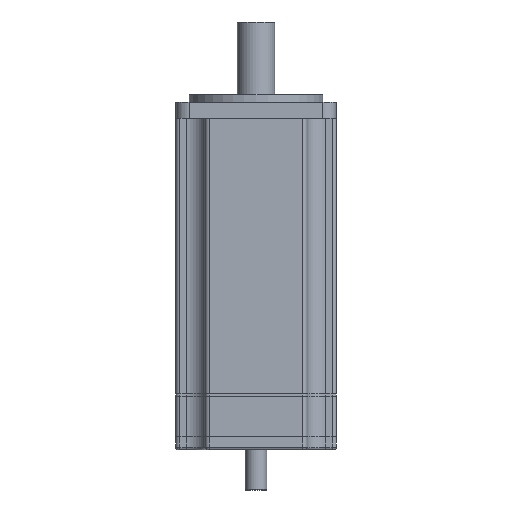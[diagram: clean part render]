
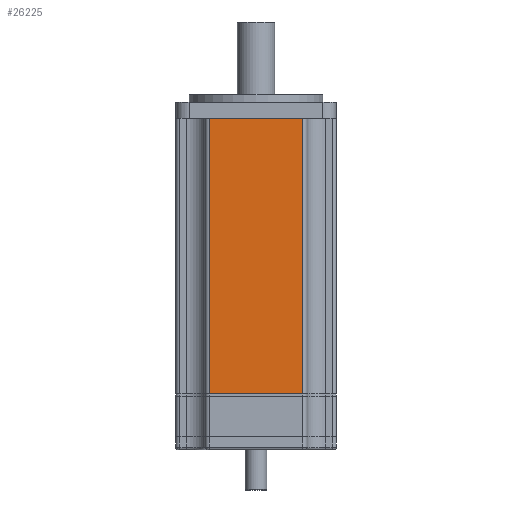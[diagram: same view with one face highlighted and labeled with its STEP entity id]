
A CAD part, front view. The second image highlights one B-rep face of the part: STEP entity #26225.
In plain terms, the highlighted planar face has unit normal (0, -1, 0).
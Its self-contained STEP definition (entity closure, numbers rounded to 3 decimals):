
#1127 = DIRECTION ( 'NONE',  ( 0., 1., 0. ) ) ;
#1798 = CARTESIAN_POINT ( 'NONE',  ( -17.475, -29.975, -109. ) ) ;
#3166 = LINE ( 'NONE', #14464, #11602 ) ;
#3656 = EDGE_LOOP ( 'NONE', ( #5573, #7540, #11578, #13865 ) ) ;
#3758 = VECTOR ( 'NONE', #13036, 1000. ) ;
#5131 = EDGE_CURVE ( 'NONE', #24312, #19127, #27176, .T. ) ;
#5573 = ORIENTED_EDGE ( 'NONE', *, *, #13387, .T. ) ;
#6015 = EDGE_CURVE ( 'NONE', #29182, #24312, #25001, .T. ) ;
#6138 = LINE ( 'NONE', #17550, #29003 ) ;
#7540 = ORIENTED_EDGE ( 'NONE', *, *, #5131, .F. ) ;
#10827 = DIRECTION ( 'NONE',  ( -1., 0., 0. ) ) ;
#11578 = ORIENTED_EDGE ( 'NONE', *, *, #6015, .F. ) ;
#11602 = VECTOR ( 'NONE', #25809, 1000. ) ;
#12355 = DIRECTION ( 'NONE',  ( -1., 0., 0. ) ) ;
#13036 = DIRECTION ( 'NONE',  ( 0., 0., 1. ) ) ;
#13387 = EDGE_CURVE ( 'NONE', #35143, #19127, #3166, .T. ) ;
#13865 = ORIENTED_EDGE ( 'NONE', *, *, #29739, .T. ) ;
#14464 = CARTESIAN_POINT ( 'NONE',  ( 17.475, -29.975, -6. ) ) ;
#17550 = CARTESIAN_POINT ( 'NONE',  ( 17.475, -29.975, -109. ) ) ;
#17831 = CARTESIAN_POINT ( 'NONE',  ( -17.475, -29.975, -6. ) ) ;
#19102 = CARTESIAN_POINT ( 'NONE',  ( -17.475, -29.975, -109. ) ) ;
#19127 = VERTEX_POINT ( 'NONE', #17831 ) ;
#19714 = CARTESIAN_POINT ( 'NONE',  ( 17.475, -29.975, -109. ) ) ;
#20616 = FACE_OUTER_BOUND ( 'NONE', #3656, .T. ) ;
#24312 = VERTEX_POINT ( 'NONE', #19102 ) ;
#25001 = LINE ( 'NONE', #36220, #32581 ) ;
#25037 = AXIS2_PLACEMENT_3D ( 'NONE', #26505, #1127, #12355 ) ;
#25809 = DIRECTION ( 'NONE',  ( -1., 0., 0. ) ) ;
#26225 = ADVANCED_FACE ( 'NONE', ( #20616 ), #31852, .F. ) ;
#26505 = CARTESIAN_POINT ( 'NONE',  ( 17.475, -29.975, -109. ) ) ;
#27176 = LINE ( 'NONE', #1798, #3758 ) ;
#27402 = CARTESIAN_POINT ( 'NONE',  ( 17.475, -29.975, -6. ) ) ;
#28830 = DIRECTION ( 'NONE',  ( 0., 0., 1. ) ) ;
#29003 = VECTOR ( 'NONE', #28830, 1000. ) ;
#29182 = VERTEX_POINT ( 'NONE', #19714 ) ;
#29739 = EDGE_CURVE ( 'NONE', #29182, #35143, #6138, .T. ) ;
#31852 = PLANE ( 'NONE',  #25037 ) ;
#32581 = VECTOR ( 'NONE', #10827, 1000. ) ;
#35143 = VERTEX_POINT ( 'NONE', #27402 ) ;
#36220 = CARTESIAN_POINT ( 'NONE',  ( 17.475, -29.975, -109. ) ) ;
